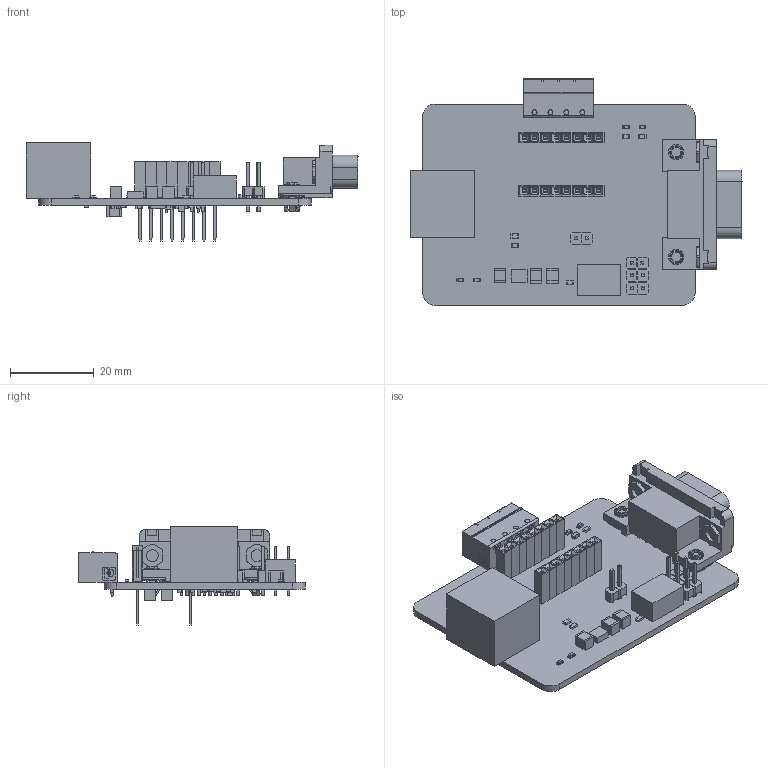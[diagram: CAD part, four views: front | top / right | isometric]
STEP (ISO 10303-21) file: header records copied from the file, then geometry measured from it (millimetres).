
FILE_DESCRIPTION(('Open CASCADE Model'),'2;1');
FILE_NAME('Open CASCADE Shape Model','2020-02-02T20:15:39',('Author'),( 'Open CASCADE'),'Open CASCADE STEP processor 6.5','Open CASCADE 6.5' ,'Unknown');
FILE_SCHEMA(('AUTOMOTIVE_DESIGN { 1 0 10303 214 1 1 1 1 }'));
Length unit declared in the file: millimetre
Products named in the file (103): PCB; Board; J6; User_Library-HDR1X1_Rectangular_Straight; J7; J5; R4; 1743648560; Extruded; 1743646768; R5; R1; 1743647920; 1743647408; R2; 1945119584; 1945119712; R3; 1743648176; 1743648048; J2; 1803293; C6; 1743656880; 1743656496; C7; 1945120352; 1743646512; C8; 1945119456; 1945119072; C5; 1743647280; 1743657008; C1; 1743657648; 1743649712; C2; C3; C4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
Assembly tree (172 placements, depth 4):
  PCB
    Board
    J6
      User_Library-HDR1X1_Rectangular_Straight  x2
    J7
      User_Library-HDR1X1_Rectangular_Straight  x2
    J5
      User_Library-HDR1X1_Rectangular_Straight  x2
    R4
      1743648560  x2
        Extruded
      1743646768
        Extruded
    R5
      1743648560  x2
        Extruded
      1743646768
        Extruded
    R1
      1743647920  x2
        Extruded
      1743647408
        Extruded
    R2
      1945119584
        Extruded
      1945119712  x2
        Extruded
    R3
      1743648176  x2
        Extruded
      1743648048
        Extruded
    J2
      1803293
    C6
      1743656880
        Extruded
      1743656496  x2
        Extruded
    C7
      1945120352
        Extruded
      1743646512  x2
        Extruded
    C8
      1945119456  x2
        Extruded
      1945119072
        Extruded
    C5
      1743647280
        Extruded
      1743657008  x2
        Extruded
    C1
      1743657648
        Extruded
      1743649712  x2
        Extruded
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Bounding box: 79.18 x 54.03 x 23.42 mm (x, y, z)
Volume: 13728.7 mm3; surface area: 16762.9 mm2
Topology: 133 solids, 133 shells, 2451 faces, 5874 edges, 3790 vertices
Faces by surface type: plane 2027, cylinder 382, cone 22, sphere 20
Entity records: 84848 total; most frequent: CARTESIAN_POINT 26168, DIRECTION 9751, LINE 5894, VECTOR 5894, ORIENTED_EDGE 5324, PCURVE 5324, DEFINITIONAL_REPRESENTATION 5324, EDGE_CURVE 2662
